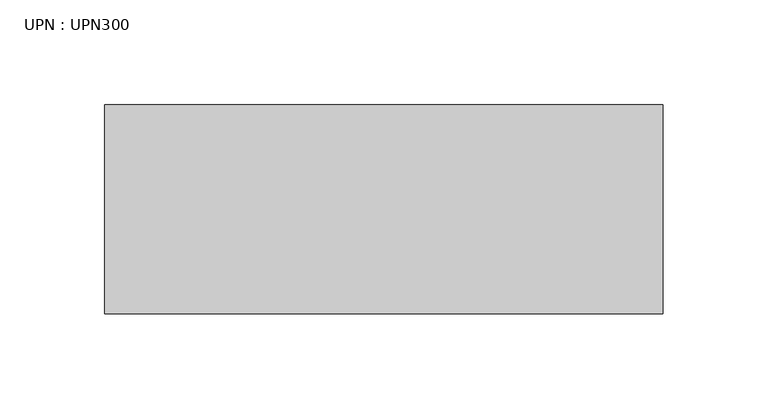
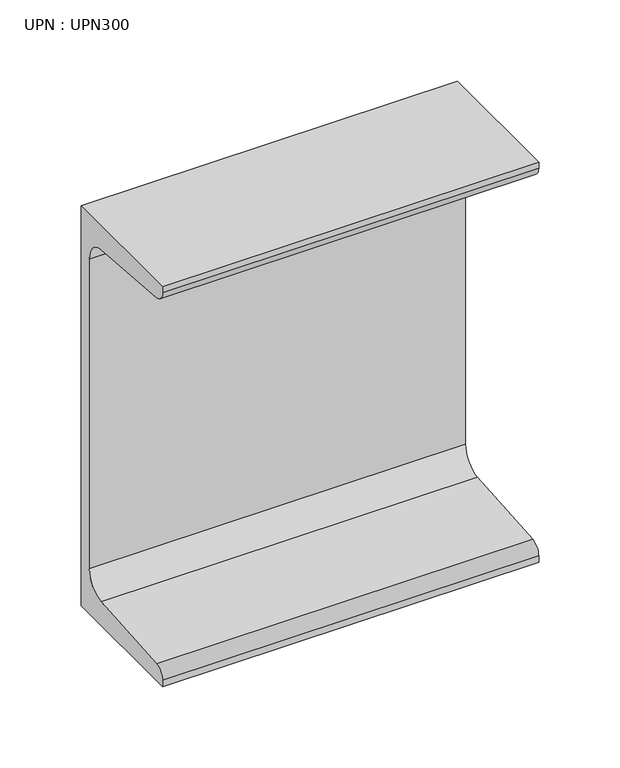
"""IFC4 building model written with IfcOpenShell, lengths in millimetres: beam geometry, UPN : UPN300."""

from ifc_helpers import new_model, si_unit, point, frame, frame_2d, origin, place, context, project, spatial, polyline, circle_curve, trimmed, segment, composite_curve, outline, extrude, source, transform, mapped, element, save


def upn_upn300_36335e62(model_context):
    return source(origin(), model_context, "Body", "SweptSolid", [
        extrude(outline(composite_curve([segment(polyline([(27.0, 150.0), (27.0, -150.0), (-73.0, -150.0), (-73.0, -145.3826224)]), True, "CONTINUOUS"), segment(trimmed(circle_curve(frame_2d((-65.0, -145.3826224)), 8.0), [point((-73.0, -145.3826224))], [point((-65.637416, -137.4080566))], False, "CARTESIAN"), True, "CONTINUOUS"), segment(polyline([(-65.637416, -137.4080566), (2.274832, -131.9797543)]), True, "CONTINUOUS"), segment(trimmed(circle_curve(frame_2d((1.0, -116.0306225)), 16.0), [point((2.274832, -131.9797543))], [point((17.0, -116.0306225))], True, "CARTESIAN"), True, "CONTINUOUS"), segment(polyline([(17.0, -116.0306225), (17.0, 116.0306225)]), True, "CONTINUOUS"), segment(trimmed(circle_curve(frame_2d((1.0, 116.0306225)), 16.0), [point((17.0, 116.0306225))], [point((2.274832, 131.9797543))], True, "CARTESIAN"), True, "CONTINUOUS"), segment(polyline([(2.274832, 131.9797543), (-65.637416, 137.4080566)]), True, "CONTINUOUS"), segment(trimmed(circle_curve(frame_2d((-65.0, 145.3826224)), 8.0), [point((-65.637416, 137.4080566))], [point((-73.0, 145.3826224))], False, "CARTESIAN"), True, "CONTINUOUS"), segment(polyline([(-73.0, 145.3826224), (-73.0, 150.0), (27.0, 150.0)]), True, "CONTINUOUS")], self_intersect=False)), frame((-127.2, 0.0, 0.0), z_axis=(1.0, 0.0, 0.0), x_axis=(0.0, 1.0, 0.0)), (0.0, 0.0, 1.0), 267.1),
    ])


if __name__ == "__main__":
    model = new_model("IFC4")
    model_context = context("Model", 3, world=origin())
    ifc_project = project(units=[si_unit("LENGTHUNIT", "METRE", prefix="MILLI")], contexts=[model_context])
    site = spatial("IfcSite", under=ifc_project)
    building = spatial("IfcBuilding", under=site)
    placement = place(None, origin())
    upn_upn300_shape = upn_upn300_36335e62(model_context)
    element("IfcBeam", 1, ObjectType="UPN : UPN300", at=placement, inside=building, context=model_context, shape_type="MappedRepresentation", body=[
        mapped(upn_upn300_shape, transform((0.0, 0.0, 0.0), x_axis=(1.0, 0.0, 0.0), y_axis=(0.0, 1.0, 0.0), z_axis=(0.0, 0.0, 1.0))),
    ])
    save(model, "model.ifc")
